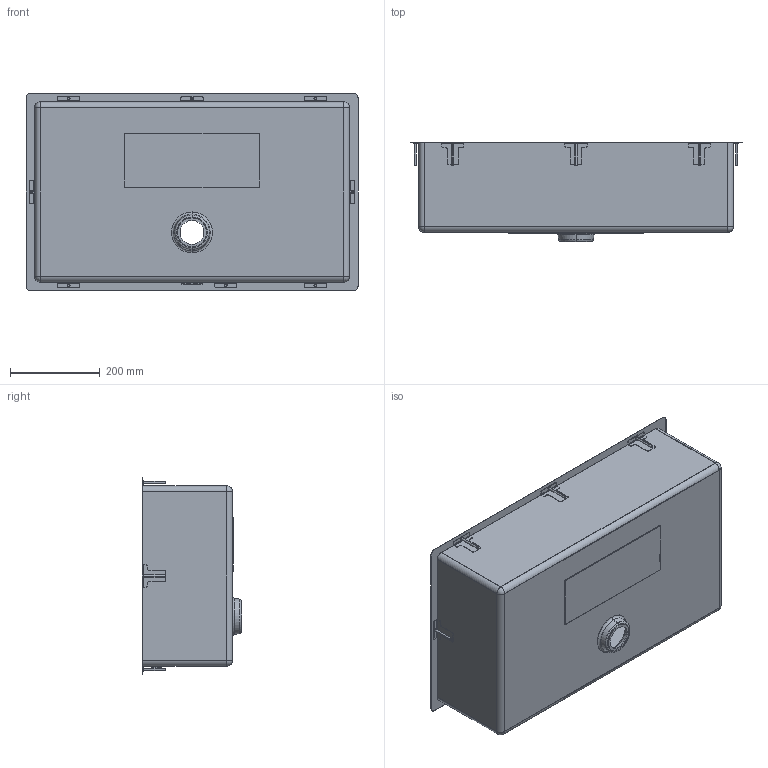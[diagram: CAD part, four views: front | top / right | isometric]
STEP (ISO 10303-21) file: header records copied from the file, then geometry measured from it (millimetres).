
FILE_DESCRIPTION (( 'STEP AP203' ), '1' );
FILE_NAME ('Matra 74x44 1v.STEP', '2021-01-27T15:52:45', ( 'Utente Windows' ), ( '' ), 'SwSTEP 2.0', 'SolidWorks 2020', '' );
FILE_SCHEMA (( 'CONFIG_CONTROL_DESIGN' ));
Length unit declared in the file: millimetre
Products named in the file (13): Ass. GB17P6; Matra - piletta integrata_74x44 1v; TF13 - smorzante 300x120x1,8; GB17P4 - inserto filettato M5; Matra 74x44 1v; GB17P1 - base gancio_Piegato
Assembly tree (26 placements, depth 3):
  Matra 74x44 1v
    Matra - piletta integrata_74x44 1v
    Ass. GB17P6
      GB17P1 - base gancio_Piegato
      GB17P4 - inserto filettato M5
    Ass. GB17P6
      GB17P1 - base gancio_Piegato
      GB17P4 - inserto filettato M5
    TF13 - smorzante 300x120x1,8
    Ass. GB17P6
      GB17P1 - base gancio_Piegato
      GB17P4 - inserto filettato M5
    Ass. GB17P6
      GB17P1 - base gancio_Piegato
      GB17P4 - inserto filettato M5
    Ass. GB17P6
      GB17P1 - base gancio_Piegato
      GB17P4 - inserto filettato M5
    Ass. GB17P6
      GB17P1 - base gancio_Piegato
      GB17P4 - inserto filettato M5
    Ass. GB17P6
      GB17P1 - base gancio_Piegato
      GB17P4 - inserto filettato M5
    Ass. GB17P6
      GB17P1 - base gancio_Piegato
      GB17P4 - inserto filettato M5
Bounding box: 740 x 221.9 x 440 mm (x, y, z)
Volume: 764955 mm3; surface area: 1619281.4 mm2
Topology: 18 solids, 18 shells, 387 faces, 943 edges, 590 vertices
Faces by surface type: plane 206, cylinder 145, cone 20, torus 8, sphere 8
Entity records: 6656 total; most frequent: DIRECTION 935, CARTESIAN_POINT 874, ORIENTED_EDGE 806, EDGE_CURVE 403, AXIS2_PLACEMENT_3D 347, VERTEX_POINT 254, LINE 241, VECTOR 241
